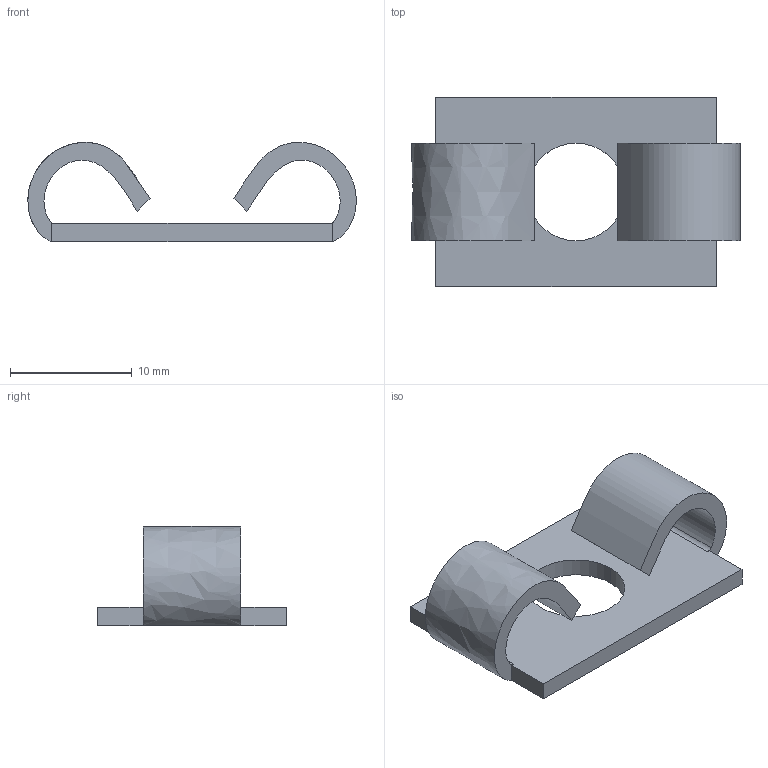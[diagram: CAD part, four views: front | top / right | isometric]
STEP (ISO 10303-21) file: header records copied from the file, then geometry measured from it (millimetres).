
FILE_DESCRIPTION (( 'STEP AP203' ), '1' );
FILE_NAME ('5082.STEP', '2017-02-10T12:02:10', ( 'RosInstal-MKM' ), ( '' ), 'SwSTEP 2.0', 'SolidWorks 2014', '' );
FILE_SCHEMA (( 'CONFIG_CONTROL_DESIGN' ));
Length unit declared in the file: millimetre
Products named in the file (1): 5082
Bounding box: 26.92 x 15.5 x 8.14 mm (x, y, z)
Volume: 824.8 mm3; surface area: 1375.3 mm2
Topology: 1 solids, 1 shells, 22 faces, 56 edges, 36 vertices
Faces by surface type: plane 14, cylinder 4, bspline 4
Entity records: 793 total; most frequent: CARTESIAN_POINT 199, ORIENTED_EDGE 112, DIRECTION 94, EDGE_CURVE 56, LINE 40, VECTOR 40, VERTEX_POINT 36, AXIS2_PLACEMENT_3D 27
